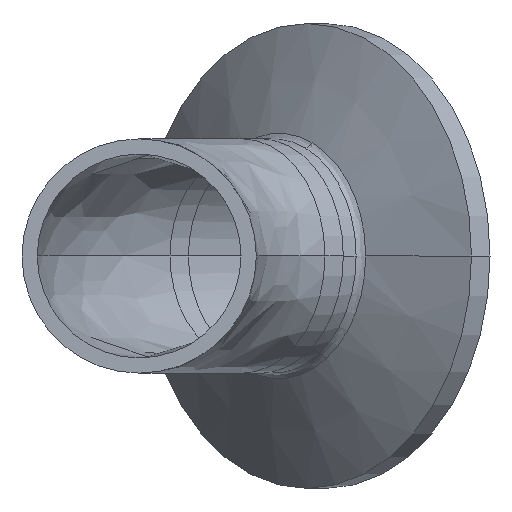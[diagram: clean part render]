
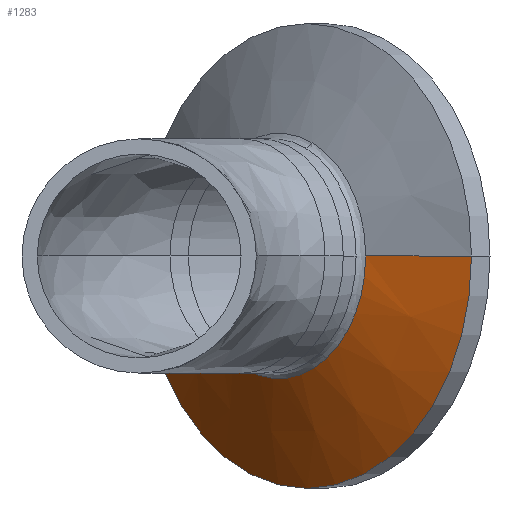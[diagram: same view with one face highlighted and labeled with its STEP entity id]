
A CAD part, front view. The second image highlights one B-rep face of the part: STEP entity #1283.
In plain terms, the highlighted conical face has half-angle 70 degrees and reference radius 25.197 mm.
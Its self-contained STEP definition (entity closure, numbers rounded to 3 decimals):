
#28 = DIRECTION ( 'NONE',  ( 0.707, 0.707, 0. ) ) ;
#42 = VERTEX_POINT ( 'NONE', #336 ) ;
#56 = CARTESIAN_POINT ( 'NONE',  ( 11.559, 75.942, -12.294 ) ) ;
#98 = CARTESIAN_POINT ( 'NONE',  ( 18.212, 75.412, 0. ) ) ;
#106 = DIRECTION ( 'NONE',  ( -0.707, 0.707, 0. ) ) ;
#191 = AXIS2_PLACEMENT_3D ( 'NONE', #1734, #1630, #1241 ) ;
#204 = CIRCLE ( 'NONE', #1758, 13.302 ) ;
#290 = CIRCLE ( 'NONE', #191, 13.302 ) ;
#291 = EDGE_CURVE ( 'NONE', #908, #520, #667, .T. ) ;
#336 = CARTESIAN_POINT ( 'NONE',  ( 5.745, 81.756, 0. ) ) ;
#430 = VECTOR ( 'NONE', #1397, 1000. ) ;
#446 = FACE_OUTER_BOUND ( 'NONE', #1136, .T. ) ;
#502 = DIRECTION ( 'NONE',  ( -0.423, 0.906, 0. ) ) ;
#509 = CARTESIAN_POINT ( 'NONE',  ( 0.395, 93.229, 0. ) ) ;
#515 = DIRECTION ( 'NONE',  ( -0.27, 0.27, -0.924 ) ) ;
#520 = VERTEX_POINT ( 'NONE', #1046 ) ;
#527 = DIRECTION ( 'NONE',  ( -0.707, -0.707, 0. ) ) ;
#542 = CARTESIAN_POINT ( 'NONE',  ( 18.212, 75.412, 0. ) ) ;
#563 = CARTESIAN_POINT ( 'NONE',  ( 36.029, 57.595, 0. ) ) ;
#579 = AXIS2_PLACEMENT_3D ( 'NONE', #542, #527, #515 ) ;
#661 = LINE ( 'NONE', #509, #1686 ) ;
#667 = LINE ( 'NONE', #563, #430 ) ;
#724 = ORIENTED_EDGE ( 'NONE', *, *, #1566, .T. ) ;
#734 = EDGE_CURVE ( 'NONE', #1151, #520, #1016, .T. ) ;
#773 = AXIS2_PLACEMENT_3D ( 'NONE', #98, #28, #106 ) ;
#908 = VERTEX_POINT ( 'NONE', #1519 ) ;
#1016 = CIRCLE ( 'NONE', #579, 25.197 ) ;
#1039 = ORIENTED_EDGE ( 'NONE', *, *, #1598, .T. ) ;
#1046 = CARTESIAN_POINT ( 'NONE',  ( 36.029, 57.595, 0. ) ) ;
#1099 = ORIENTED_EDGE ( 'NONE', *, *, #734, .T. ) ;
#1122 = CONICAL_SURFACE ( 'NONE', #773, 25.197, 1.222 ) ;
#1136 = EDGE_LOOP ( 'NONE', ( #1714, #1514, #1039, #724, #1099 ) ) ;
#1151 = VERTEX_POINT ( 'NONE', #1355 ) ;
#1241 = DIRECTION ( 'NONE',  ( 0.27, -0.27, 0.924 ) ) ;
#1283 = ADVANCED_FACE ( 'NONE', ( #446 ), #1122, .T. ) ;
#1355 = CARTESIAN_POINT ( 'NONE',  ( 0.395, 93.229, 0. ) ) ;
#1379 = EDGE_CURVE ( 'NONE', #908, #1411, #204, .T. ) ;
#1397 = DIRECTION ( 'NONE',  ( 0.906, -0.423, 0. ) ) ;
#1411 = VERTEX_POINT ( 'NONE', #56 ) ;
#1514 = ORIENTED_EDGE ( 'NONE', *, *, #1379, .T. ) ;
#1519 = CARTESIAN_POINT ( 'NONE',  ( 24.556, 62.945, 0. ) ) ;
#1566 = EDGE_CURVE ( 'NONE', #42, #1151, #661, .T. ) ;
#1598 = EDGE_CURVE ( 'NONE', #1411, #42, #290, .T. ) ;
#1619 = DIRECTION ( 'NONE',  ( 0.27, -0.27, 0.924 ) ) ;
#1627 = CARTESIAN_POINT ( 'NONE',  ( 15.15, 72.35, 0. ) ) ;
#1630 = DIRECTION ( 'NONE',  ( 0.707, 0.707, 0. ) ) ;
#1686 = VECTOR ( 'NONE', #502, 1000. ) ;
#1714 = ORIENTED_EDGE ( 'NONE', *, *, #291, .F. ) ;
#1734 = CARTESIAN_POINT ( 'NONE',  ( 15.15, 72.35, 0. ) ) ;
#1744 = DIRECTION ( 'NONE',  ( 0.707, 0.707, 0. ) ) ;
#1758 = AXIS2_PLACEMENT_3D ( 'NONE', #1627, #1744, #1619 ) ;
